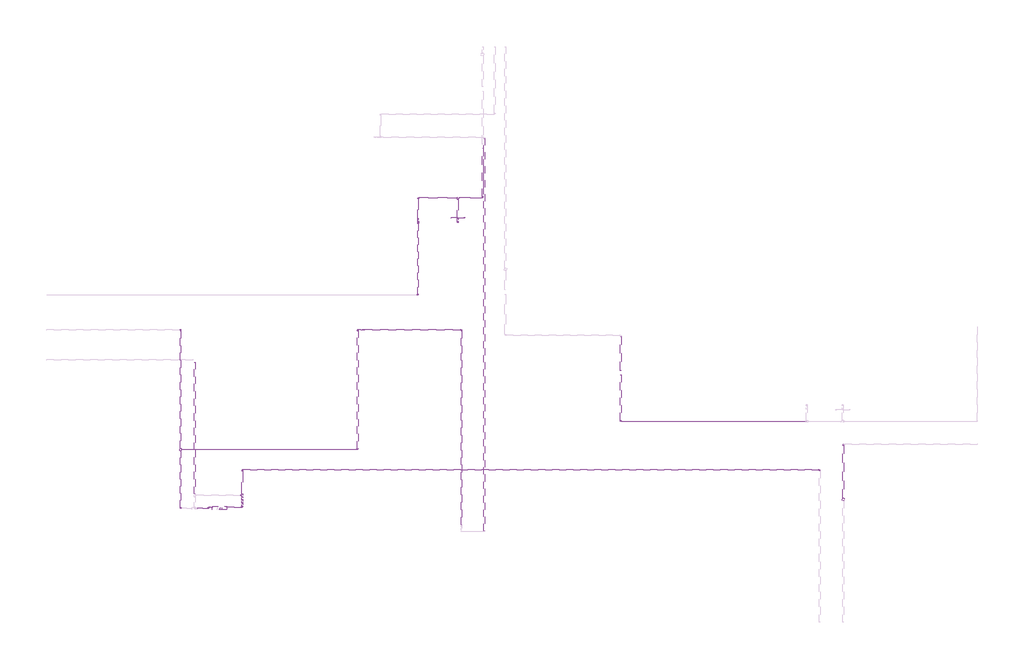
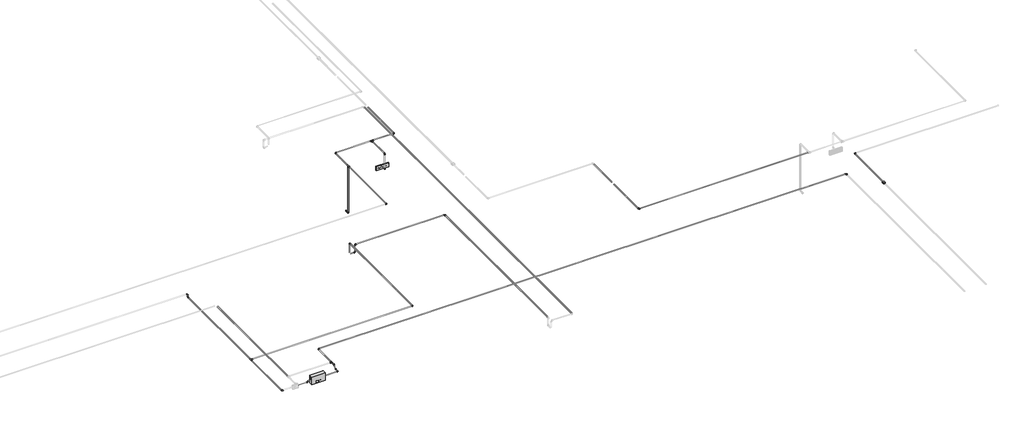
# One storey, part 5 of 6: 35 cable carrier segments, 27 cable carrier fittings, 3 alarms, 1 proxy.
"""IFC4 building model written with IfcOpenShell, lengths in millimetres."""

from ifc_helpers import new_model, si_unit, point, frame, frame_2d, origin, place, context, project, spatial, circle_curve, trimmed, segment, composite_curve, outline, extrude, transform, mapped, element, save
from components import alarm_4b7e8fd8, alarm_a2247946, alarm_12v_26ah_d63bb5e3, electrical_equipment_721526f4, cable_carrier_fitting_69f1a801, cable_carrier_fitting_8122f9af, cable_carrier_fitting_512a3dd7, cable_carrier_fitting_8fd13dfc

model = new_model("IFC4")

# Units and contexts
model_context = context("Model", 3, world=origin())
ifc_project = project(units=[si_unit("LENGTHUNIT", "METRE", prefix="MILLI")], contexts=[model_context])

# Site, building, storey
site = spatial("IfcSite", under=ifc_project)
building = spatial("IfcBuilding", under=site)
storey = spatial("IfcBuildingStorey", under=building, Name="Подвальный этаж", Elevation=-3000.0)

# Alarms
placement = place(None, origin())
alarm_shape = alarm_4b7e8fd8(model_context)
element("IfcAlarm", 1, ObjectType="RBZ_Оповещатель_Световой_Рубеж_ОПОП1-R3(грань) : ОПОП 1-R3 \"Выход\"", at=placement, inside=storey, context=model_context, shape_type="MappedRepresentation", body=[
    mapped(alarm_shape, transform((7210.1759979, 6644.6370105, -700.0), x_axis=(-1.0, 0.0, 0.0), y_axis=(0.0, 0.0, 1.0), z_axis=(0.0, 1.0, 0.0))),
])
alarm_2_shape = alarm_a2247946(model_context)
element("IfcAlarm", 2, ObjectType="RBZ_ИзоляторШлейфа_Рубеж_ИЗ-1_прот.R3(плоскость) : ИЗ-1 прот.R3", at=placement, inside=storey, context=model_context, shape_type="MappedRepresentation", body=[
    mapped(alarm_2_shape, transform((15629.9732726, 494.6370105, -299.95), x_axis=(1.0, 0.0, 0.0), y_axis=(0.0, 1.0, 0.0), z_axis=(0.0, 0.0, 1.0))),
])
alarm_12v_26ah_shape = alarm_12v_26ah_d63bb5e3(model_context)
element("IfcAlarm", 3, ObjectType="АКБ : 12V-7Ah", at=placement, inside=storey, context=model_context, shape_type="MappedRepresentation", body=[
    mapped(alarm_12v_26ah_shape, transform((2025.3958444, 264.6370105, -446.4079999), x_axis=(-1.0, 0.0, 0.0), y_axis=(0.0, -1.0, 0.0), z_axis=(0.0, 0.0, 1.0))),
])

# Proxy
electrical_equipment_shape = electrical_equipment_721526f4(model_context)
element("IfcBuildingElementProxy", 4, Name="RBZ_ИсточникВторичногоЭлектропитания_Рубеж_ИВЭПР12_RS-R3 : ИВЭПР 12/2 RS-R3 исп. 2x7 БР", ObjectType="RBZ_ИсточникВторичногоЭлектропитания_Рубеж_ИВЭПР12_RS-R3 : ИВЭПР 12/2 RS-R3 исп. 2x7 БР", at=placement, inside=storey, context=model_context, shape_type="MappedRepresentation", body=[
    mapped(electrical_equipment_shape, transform((2000.3958444, 264.6370105, -446.4079999), x_axis=(1.0, 0.0, 0.0), y_axis=(0.0, 1.0, 0.0), z_axis=(0.0, 0.0, 1.0))),
])

# Cable carrier fittings
cable_carrier_fitting_shape = cable_carrier_fitting_69f1a801(model_context)
element("IfcCableCarrierFitting", 5, ObjectType="ADSK_Поворот_Минимальный размер : Неспецифицируемый", at=placement, inside=storey, context=model_context, shape_type="MappedRepresentation", body=[
    mapped(cable_carrier_fitting_shape, transform((15629.9732726, 1703.2505803, -310.7), x_axis=(-1.0, 0.0, 0.0), y_axis=(0.0, -1.0, 0.0), z_axis=(0.0, 0.0, 1.0))),
])
element("IfcCableCarrierFitting", 6, ObjectType="ADSK_Поворот_Минимальный размер : Неспецифицируемый", at=placement, inside=storey, context=model_context, shape_type="MappedRepresentation", body=[
    mapped(cable_carrier_fitting_shape, transform((10767.6759979, 2198.2505803, -310.7), x_axis=(0.0, -1.0, 0.0), y_axis=(1.0, 0.0, 0.0), z_axis=(0.0, 0.0, 1.0))),
])
element("IfcCableCarrierFitting", 7, ObjectType="ADSK_Поворот_Минимальный размер : Неспецифицируемый", at=placement, inside=storey, context=model_context, shape_type="MappedRepresentation", body=[
    mapped(cable_carrier_fitting_shape, transform((15115.1759979, 1144.6370105, -310.7), x_axis=(0.0, 1.0, 0.0), y_axis=(-1.0, 0.0, 0.0), z_axis=(0.0, 0.0, 1.0))),
])
element("IfcCableCarrierFitting", 8, ObjectType="ADSK_Поворот_Минимальный размер : Неспецифицируемый", at=placement, inside=storey, context=model_context, shape_type="MappedRepresentation", body=[
    mapped(cable_carrier_fitting_shape, transform((7747.6759979, 7085.6370105, -310.7), x_axis=(1.0, 0.0, 0.0), y_axis=(0.0, 1.0, 0.0), z_axis=(0.0, 0.0, 1.0))),
])
element("IfcCableCarrierFitting", 9, ObjectType="ADSK_Поворот_Минимальный размер : Неспецифицируемый", at=placement, inside=storey, context=model_context, shape_type="MappedRepresentation", body=[
    mapped(cable_carrier_fitting_shape, transform((7210.1759979, 6547.4372049, -700.0), x_axis=(0.0, -1.0, 0.0), y_axis=(0.0, 0.0, 1.0), z_axis=(-1.0, 0.0, 0.0))),
])
element("IfcCableCarrierFitting", 10, ObjectType="ADSK_Поворот_Минимальный размер : Неспецифицируемый", at=placement, inside=storey, context=model_context, shape_type="MappedRepresentation", body=[
    mapped(cable_carrier_fitting_shape, transform((7210.1759979, 6547.4372049, -310.7), x_axis=(0.0, 0.0, 1.0), y_axis=(0.0, 1.0, 0.0), z_axis=(-1.0, 0.0, 0.0))),
])
element("IfcCableCarrierFitting", 11, ObjectType="ADSK_Поворот_Минимальный размер : Неспецифицируемый", at=placement, inside=storey, context=model_context, shape_type="MappedRepresentation", body=[
    mapped(cable_carrier_fitting_shape, transform((6337.6759979, 7085.6370105, -310.7), x_axis=(-1.0, 0.0, 0.0), y_axis=(0.0, -1.0, 0.0), z_axis=(0.0, 0.0, 1.0))),
])
element("IfcCableCarrierFitting", 12, ObjectType="ADSK_Поворот_Минимальный размер : Неспецифицируемый", at=placement, inside=storey, context=model_context, shape_type="MappedRepresentation", body=[
    mapped(cable_carrier_fitting_shape, transform((6337.6759979, 6547.4372049, -1500.0), x_axis=(0.0, -1.0, 0.0), y_axis=(0.0, 0.0, 1.0), z_axis=(-1.0, 0.0, 0.0))),
])
element("IfcCableCarrierFitting", 13, ObjectType="ADSK_Поворот_Минимальный размер : Неспецифицируемый", at=placement, inside=storey, context=model_context, shape_type="MappedRepresentation", body=[
    mapped(cable_carrier_fitting_shape, transform((6337.6759979, 4962.1370105, -310.7), x_axis=(1.0, 0.0, 0.0), y_axis=(0.0, 1.0, 0.0), z_axis=(0.0, 0.0, 1.0))),
])
element("IfcCableCarrierFitting", 14, ObjectType="ADSK_Поворот_Минимальный размер : Неспецифицируемый", at=placement, inside=storey, context=model_context, shape_type="MappedRepresentation", body=[
    mapped(cable_carrier_fitting_shape, transform((2497.3268055, 1144.6370105, -310.7), x_axis=(-1.0, 0.0, 0.0), y_axis=(0.0, -1.0, 0.0), z_axis=(0.0, 0.0, 1.0))),
])
element("IfcCableCarrierFitting", 15, ObjectType="ADSK_Поворот_Минимальный размер : Неспецифицируемый", at=placement, inside=storey, context=model_context, shape_type="MappedRepresentation", body=[
    mapped(cable_carrier_fitting_shape, transform((1147.6759979, 299.1370115, -381.0), x_axis=(0.0, -1.0, 0.0), y_axis=(1.0, 0.0, 0.0), z_axis=(0.0, 0.0, 1.0))),
])
element("IfcCableCarrierFitting", 16, ObjectType="ADSK_Поворот_Минимальный размер : Неспецифицируемый", at=placement, inside=storey, context=model_context, shape_type="MappedRepresentation", body=[
    mapped(cable_carrier_fitting_shape, transform((1147.6759979, 4204.6370105, -310.7), x_axis=(1.0, 0.0, 0.0), y_axis=(0.0, -0.1411390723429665, -0.9899897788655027), z_axis=(0.0, 0.9899897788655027, -0.1411390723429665))),
])
element("IfcCableCarrierFitting", 17, ObjectType="ADSK_Поворот_Минимальный размер : Неспецифицируемый", at=placement, inside=storey, context=model_context, shape_type="MappedRepresentation", body=[
    mapped(cable_carrier_fitting_shape, transform((5017.0245706, 4204.6370105, -381.0), x_axis=(0.0, 0.0, 1.0), y_axis=(0.0, -1.0, 0.0), z_axis=(1.0, 0.0, 0.0))),
])
element("IfcCableCarrierFitting", 18, ObjectType="ADSK_Поворот_Минимальный размер : Неспецифицируемый", at=placement, inside=storey, context=model_context, shape_type="MappedRepresentation", body=[
    mapped(cable_carrier_fitting_shape, transform((5144.8758035, 4204.6370105, -655.9740066), x_axis=(1.0, 0.0, 0.0), y_axis=(0.0, 0.0, 1.0), z_axis=(0.0, -1.0, 0.0))),
])
element("IfcCableCarrierFitting", 19, ObjectType="ADSK_Поворот_Минимальный размер : Неспецифицируемый", at=placement, inside=storey, context=model_context, shape_type="MappedRepresentation", body=[
    mapped(cable_carrier_fitting_shape, transform((7287.6759979, 4204.6370105, -458.0), x_axis=(0.0, 1.0, 0.0), y_axis=(-1.0, 0.0, 0.0), z_axis=(0.0, 0.0, 1.0))),
])
element("IfcCableCarrierFitting", 20, ObjectType="ADSK_Поворот_Минимальный размер : Неспецифицируемый", at=placement, inside=storey, context=model_context, shape_type="MappedRepresentation", body=[
    mapped(cable_carrier_fitting_shape, transform((5144.8758035, 4204.6370105, -458.0), x_axis=(0.0, 0.0, 1.0), y_axis=(1.0, 0.0, 0.0), z_axis=(0.0, 1.0, 0.0))),
])
element("IfcCableCarrierFitting", 21, ObjectType="ADSK_Поворот_Минимальный размер : Неспецифицируемый", at=placement, inside=storey, context=model_context, shape_type="MappedRepresentation", body=[
    mapped(cable_carrier_fitting_shape, transform((5017.0245706, 1587.1370105, -381.0), x_axis=(1.0, 0.0, 0.0), y_axis=(0.0, 1.0, 0.0), z_axis=(0.0, 0.0, 1.0))),
])
element("IfcCableCarrierFitting", 22, ObjectType="ADSK_Поворот_Минимальный размер : Неспецифицируемый", at=placement, inside=storey, context=model_context, shape_type="MappedRepresentation", body=[
    mapped(cable_carrier_fitting_shape, transform((2497.3268055, 321.0414634, -381.0), x_axis=(1.0, 0.0, 0.0), y_axis=(0.0, 1.0, 0.0), z_axis=(0.0, 0.0, 1.0))),
])
cable_carrier_fitting_2_shape = cable_carrier_fitting_8122f9af(model_context)
element("IfcCableCarrierFitting", 23, ObjectType="ADSK_Поворот_Минимальный размер : Неспецифицируемый", at=placement, inside=storey, context=model_context, shape_type="MappedRepresentation", body=[
    mapped(cable_carrier_fitting_2_shape, transform((1769.5303101, 321.0414634, -381.0), x_axis=(-1.0, 0.0, 0.0), y_axis=(0.0, -1.0, 0.0), z_axis=(0.0, 0.0, 1.0))),
])
element("IfcCableCarrierFitting", 24, ObjectType="ADSK_Поворот_Минимальный размер : Неспецифицируемый", at=placement, inside=storey, context=model_context, shape_type="MappedRepresentation", body=[
    mapped(cable_carrier_fitting_2_shape, transform((1747.6258581, 299.1370115, -381.0), x_axis=(1.0, 0.0, 0.0), y_axis=(0.0, 1.0, 0.0), z_axis=(0.0, 0.0, 1.0))),
])
element("IfcCableCarrierFitting", 25, ObjectType="ADSK_Поворот_Минимальный размер : Неспецифицируемый", at=placement, inside=storey, context=model_context, shape_type="MappedRepresentation", body=[
    mapped(cable_carrier_fitting_2_shape, transform((2497.3268055, 488.2714762, -310.7), x_axis=(0.0, -1.0, 0.0), y_axis=(0.0, 0.0, -1.0), z_axis=(1.0, 0.0, 0.0))),
])
element("IfcCableCarrierFitting", 26, ObjectType="ADSK_Поворот_Минимальный размер : Неспецифицируемый", at=placement, inside=storey, context=model_context, shape_type="MappedRepresentation", body=[
    mapped(cable_carrier_fitting_2_shape, transform((2497.3268055, 417.9714762, -381.0), x_axis=(0.0, -0.7071067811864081, -0.7071067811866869), y_axis=(0.0, -0.7071067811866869, 0.7071067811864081), z_axis=(-1.0, 0.0, 0.0))),
])
cable_carrier_fitting_3_shape = cable_carrier_fitting_512a3dd7(model_context)
element("IfcCableCarrierFitting", 27, ObjectType="ADSK_Поворот_Минимальный размер : Неспецифицируемый", at=placement, inside=storey, context=model_context, shape_type="MappedRepresentation", body=[
    mapped(cable_carrier_fitting_3_shape, transform((1147.6759979, 4194.6146073, -381.0), x_axis=(0.0, 1.0, 0.0), y_axis=(0.0, 0.0, 1.0), z_axis=(1.0, 0.0, 0.0))),
])
cable_carrier_fitting_4_shape = cable_carrier_fitting_8fd13dfc(model_context)
element("IfcCableCarrierFitting", 28, ObjectType="ADSK_Тройник : ПВХ", at=placement, inside=storey, context=model_context, shape_type="MappedRepresentation", body=[
    mapped(cable_carrier_fitting_4_shape, transform((7210.1759979, 7085.6370105, -310.7), x_axis=(1.0, 0.0, 0.0), y_axis=(0.0, 1.0, 0.0), z_axis=(0.0, 0.0, 1.0))),
])
element("IfcCableCarrierFitting", 29, ObjectType="ADSK_Тройник : ПВХ", at=placement, inside=storey, context=model_context, shape_type="MappedRepresentation", body=[
    mapped(cable_carrier_fitting_4_shape, transform((6337.6759979, 6547.4372049, -310.7), x_axis=(0.0, 1.0, 0.0), y_axis=(0.0, 0.0, 1.0), z_axis=(1.0, 0.0, 0.0))),
])
element("IfcCableCarrierFitting", 30, ObjectType="ADSK_Тройник : ПВХ", at=placement, inside=storey, context=model_context, shape_type="MappedRepresentation", body=[
    mapped(cable_carrier_fitting_4_shape, transform((2497.3268055, 587.1370105, -310.7), x_axis=(0.0, -1.0, 0.0), y_axis=(1.0, 0.0, 0.0), z_axis=(0.0, 0.0, 1.0))),
])
element("IfcCableCarrierFitting", 31, ObjectType="ADSK_Тройник : ПВХ", at=placement, inside=storey, context=model_context, shape_type="MappedRepresentation", body=[
    mapped(cable_carrier_fitting_4_shape, transform((1147.6759979, 1587.1370105, -381.0), x_axis=(0.0, 1.0, 0.0), y_axis=(-1.0, 0.0, 0.0), z_axis=(0.0, 0.0, 1.0))),
])

# Cable carrier segments
element("IfcCableCarrierSegment", 32, ObjectType="Гофрированная труба", at=placement, inside=storey, context=model_context, shape_type="SweptSolid", body=[
    extrude(outline(composite_curve([segment(trimmed(circle_curve(frame_2d((1144.6370105, -310.7)), 10.0), [point((1134.6370105, -310.7))], [point((1144.6370105, -300.7))], False, "CARTESIAN"), True, "CONTINUOUS"), segment(trimmed(circle_curve(frame_2d((1144.6370105, -310.7)), 10.0), [point((1144.6370105, -300.7))], [point((1154.6370105, -310.7))], False, "CARTESIAN"), True, "CONTINUOUS"), segment(trimmed(circle_curve(frame_2d((1144.6370105, -310.7)), 10.0), [point((1154.6370105, -310.7))], [point((1144.6370105, -320.7))], False, "CARTESIAN"), True, "CONTINUOUS"), segment(trimmed(circle_curve(frame_2d((1144.6370105, -310.7)), 10.0), [point((1144.6370105, -320.7))], [point((1134.6370105, -310.7))], False, "CARTESIAN"), True, "CONTINUOUS")], self_intersect=False)), frame((2518.3268055, 0.0, 0.0), z_axis=(1.0, 0.0, 0.0), x_axis=(0.0, 1.0, 0.0)), (0.0, 0.0, 1.0), 12575.8491924),
])
element("IfcCableCarrierSegment", 33, ObjectType="Гофрированная труба", at=placement, inside=storey, context=model_context, shape_type="SweptSolid", body=[
    extrude(outline(composite_curve([segment(trimmed(circle_curve(frame_2d((-310.7, 15629.9732726)), 10.0), [point((-310.7, 15639.9732726))], [point((-300.7, 15629.9732726))], False, "CARTESIAN"), True, "CONTINUOUS"), segment(trimmed(circle_curve(frame_2d((-310.7, 15629.9732726)), 10.0), [point((-300.7, 15629.9732726))], [point((-310.7, 15619.9732726))], False, "CARTESIAN"), True, "CONTINUOUS"), segment(trimmed(circle_curve(frame_2d((-310.7, 15629.9732726)), 10.0), [point((-310.7, 15619.9732726))], [point((-320.7, 15629.9732726))], False, "CARTESIAN"), True, "CONTINUOUS"), segment(trimmed(circle_curve(frame_2d((-310.7, 15629.9732726)), 10.0), [point((-320.7, 15629.9732726))], [point((-310.7, 15639.9732726))], False, "CARTESIAN"), True, "CONTINUOUS")], self_intersect=False)), frame((0.0, 520.6370105, 0.0), z_axis=(0.0, 1.0, 0.0), x_axis=(0.0, 0.0, 1.0)), (0.0, 0.0, 1.0), 1161.6135698),
])
element("IfcCableCarrierSegment", 34, ObjectType="Гофрированная труба", at=placement, inside=storey, context=model_context, shape_type="SweptSolid", body=[
    extrude(outline(composite_curve([segment(trimmed(circle_curve(frame_2d((2198.2505803, -310.7)), 10.0), [point((2188.2505803, -310.7))], [point((2198.2505803, -300.7))], False, "CARTESIAN"), True, "CONTINUOUS"), segment(trimmed(circle_curve(frame_2d((2198.2505803, -310.7)), 10.0), [point((2198.2505803, -300.7))], [point((2208.2505803, -310.7))], False, "CARTESIAN"), True, "CONTINUOUS"), segment(trimmed(circle_curve(frame_2d((2198.2505803, -310.7)), 10.0), [point((2208.2505803, -310.7))], [point((2198.2505803, -320.7))], False, "CARTESIAN"), True, "CONTINUOUS"), segment(trimmed(circle_curve(frame_2d((2198.2505803, -310.7)), 10.0), [point((2198.2505803, -320.7))], [point((2188.2505803, -310.7))], False, "CARTESIAN"), True, "CONTINUOUS")], self_intersect=False)), frame((10788.6759979, 0.0, 0.0), z_axis=(1.0, 0.0, 0.0), x_axis=(0.0, 1.0, 0.0)), (0.0, 0.0, 1.0), 4016.5),
])
element("IfcCableCarrierSegment", 35, ObjectType="Гофрированная труба", at=placement, inside=storey, context=model_context, shape_type="SweptSolid", body=[
    extrude(outline(composite_curve([segment(trimmed(circle_curve(frame_2d((-310.7, 10767.6759979)), 10.0), [point((-310.7, 10777.6759979))], [point((-300.7, 10767.6759979))], False, "CARTESIAN"), True, "CONTINUOUS"), segment(trimmed(circle_curve(frame_2d((-310.7, 10767.6759979)), 10.0), [point((-300.7, 10767.6759979))], [point((-310.7, 10757.6759979))], False, "CARTESIAN"), True, "CONTINUOUS"), segment(trimmed(circle_curve(frame_2d((-310.7, 10767.6759979)), 10.0), [point((-310.7, 10757.6759979))], [point((-320.7, 10767.6759979))], False, "CARTESIAN"), True, "CONTINUOUS"), segment(trimmed(circle_curve(frame_2d((-310.7, 10767.6759979)), 10.0), [point((-320.7, 10767.6759979))], [point((-310.7, 10777.6759979))], False, "CARTESIAN"), True, "CONTINUOUS")], self_intersect=False)), frame((0.0, 2219.2505803, 0.0), z_axis=(0.0, 1.0, 0.0), x_axis=(0.0, 0.0, 1.0)), (0.0, 0.0, 1.0), 998.8864302),
])
element("IfcCableCarrierSegment", 36, ObjectType="Гофрированная труба", at=placement, inside=storey, context=model_context, shape_type="SweptSolid", body=[
    extrude(outline(composite_curve([segment(trimmed(circle_curve(frame_2d((-310.7, 10767.6759979)), 10.0), [point((-310.7, 10777.6759979))], [point((-300.7, 10767.6759979))], False, "CARTESIAN"), True, "CONTINUOUS"), segment(trimmed(circle_curve(frame_2d((-310.7, 10767.6759979)), 10.0), [point((-300.7, 10767.6759979))], [point((-310.7, 10757.6759979))], False, "CARTESIAN"), True, "CONTINUOUS"), segment(trimmed(circle_curve(frame_2d((-310.7, 10767.6759979)), 10.0), [point((-310.7, 10757.6759979))], [point((-320.7, 10767.6759979))], False, "CARTESIAN"), True, "CONTINUOUS"), segment(trimmed(circle_curve(frame_2d((-310.7, 10767.6759979)), 10.0), [point((-320.7, 10767.6759979))], [point((-310.7, 10777.6759979))], False, "CARTESIAN"), True, "CONTINUOUS")], self_intersect=False)), frame((0.0, 3311.1370105, 0.0), z_axis=(0.0, 1.0, 0.0), x_axis=(0.0, 0.0, 1.0)), (0.0, 0.0, 1.0), 750.5229963),
])
element("IfcCableCarrierSegment", 37, ObjectType="Гофрированная труба", at=placement, inside=storey, context=model_context, shape_type="SweptSolid", body=[
    extrude(outline(composite_curve([segment(trimmed(circle_curve(frame_2d((-310.7, 7747.6759979)), 10.0), [point((-310.7, 7757.6759979))], [point((-300.7, 7747.6759979))], False, "CARTESIAN"), True, "CONTINUOUS"), segment(trimmed(circle_curve(frame_2d((-310.7, 7747.6759979)), 10.0), [point((-300.7, 7747.6759979))], [point((-310.7, 7737.6759979))], False, "CARTESIAN"), True, "CONTINUOUS"), segment(trimmed(circle_curve(frame_2d((-310.7, 7747.6759979)), 10.0), [point((-310.7, 7737.6759979))], [point((-320.7, 7747.6759979))], False, "CARTESIAN"), True, "CONTINUOUS"), segment(trimmed(circle_curve(frame_2d((-310.7, 7747.6759979)), 10.0), [point((-320.7, 7747.6759979))], [point((-310.7, 7757.6759979))], False, "CARTESIAN"), True, "CONTINUOUS")], self_intersect=False)), frame((0.0, 7106.6370105, 0.0), z_axis=(0.0, 1.0, 0.0), x_axis=(0.0, 0.0, 1.0)), (0.0, 0.0, 1.0), 1059.0),
])
element("IfcCableCarrierSegment", 38, ObjectType="Гофрированная труба", at=placement, inside=storey, context=model_context, shape_type="SweptSolid", body=[
    extrude(outline(composite_curve([segment(trimmed(circle_curve(frame_2d((7085.6370105, -310.7)), 10.0), [point((7075.6370105, -310.7))], [point((7085.6370105, -300.7))], False, "CARTESIAN"), True, "CONTINUOUS"), segment(trimmed(circle_curve(frame_2d((7085.6370105, -310.7)), 10.0), [point((7085.6370105, -300.7))], [point((7095.6370105, -310.7))], False, "CARTESIAN"), True, "CONTINUOUS"), segment(trimmed(circle_curve(frame_2d((7085.6370105, -310.7)), 10.0), [point((7095.6370105, -310.7))], [point((7085.6370105, -320.7))], False, "CARTESIAN"), True, "CONTINUOUS"), segment(trimmed(circle_curve(frame_2d((7085.6370105, -310.7)), 10.0), [point((7085.6370105, -320.7))], [point((7075.6370105, -310.7))], False, "CARTESIAN"), True, "CONTINUOUS")], self_intersect=False)), frame((6358.6759979, 0.0, 0.0), z_axis=(1.0, 0.0, 0.0), x_axis=(0.0, 1.0, 0.0)), (0.0, 0.0, 1.0), 821.5),
])
element("IfcCableCarrierSegment", 39, ObjectType="Гофрированная труба", at=placement, inside=storey, context=model_context, shape_type="SweptSolid", body=[
    extrude(outline(composite_curve([segment(trimmed(circle_curve(frame_2d((-310.7, 6337.6759979)), 10.0), [point((-310.7, 6327.6759979))], [point((-320.7, 6337.6759979))], False, "CARTESIAN"), True, "CONTINUOUS"), segment(trimmed(circle_curve(frame_2d((-310.7, 6337.6759979)), 10.0), [point((-320.7, 6337.6759979))], [point((-310.7, 6347.6759979))], False, "CARTESIAN"), True, "CONTINUOUS"), segment(trimmed(circle_curve(frame_2d((-310.7, 6337.6759979)), 10.0), [point((-310.7, 6347.6759979))], [point((-300.7, 6337.6759979))], False, "CARTESIAN"), True, "CONTINUOUS"), segment(trimmed(circle_curve(frame_2d((-310.7, 6337.6759979)), 10.0), [point((-300.7, 6337.6759979))], [point((-310.7, 6327.6759979))], False, "CARTESIAN"), True, "CONTINUOUS")], self_intersect=False)), frame((0.0, 4983.1370105, 0.0), z_axis=(0.0, 1.0, 0.0), x_axis=(0.0, 0.0, 1.0)), (0.0, 0.0, 1.0), 1534.3001944),
])
element("IfcCableCarrierSegment", 40, ObjectType="Гофрированная труба", at=placement, inside=storey, context=model_context, shape_type="SweptSolid", body=[
    extrude(outline(composite_curve([segment(trimmed(circle_curve(frame_2d((-310.7, 7210.1759979)), 10.0), [point((-310.7, 7220.1759979))], [point((-300.7, 7210.1759979))], False, "CARTESIAN"), True, "CONTINUOUS"), segment(trimmed(circle_curve(frame_2d((-310.7, 7210.1759979)), 10.0), [point((-300.7, 7210.1759979))], [point((-310.7, 7200.1759979))], False, "CARTESIAN"), True, "CONTINUOUS"), segment(trimmed(circle_curve(frame_2d((-310.7, 7210.1759979)), 10.0), [point((-310.7, 7200.1759979))], [point((-320.7, 7210.1759979))], False, "CARTESIAN"), True, "CONTINUOUS"), segment(trimmed(circle_curve(frame_2d((-310.7, 7210.1759979)), 10.0), [point((-320.7, 7210.1759979))], [point((-310.7, 7220.1759979))], False, "CARTESIAN"), True, "CONTINUOUS")], self_intersect=False)), frame((0.0, 6568.4372049, 0.0), z_axis=(0.0, 1.0, 0.0), x_axis=(0.0, 0.0, 1.0)), (0.0, 0.0, 1.0), 487.1998056),
])
element("IfcCableCarrierSegment", 41, ObjectType="Гофрированная труба", at=placement, inside=storey, context=model_context, shape_type="SweptSolid", body=[
    extrude(outline(composite_curve([segment(trimmed(circle_curve(frame_2d((-700.0, 7210.1759979)), 10.0), [point((-700.0, 7200.1759979))], [point((-710.0, 7210.1759979))], False, "CARTESIAN"), True, "CONTINUOUS"), segment(trimmed(circle_curve(frame_2d((-700.0, 7210.1759979)), 10.0), [point((-710.0, 7210.1759979))], [point((-700.0, 7220.1759979))], False, "CARTESIAN"), True, "CONTINUOUS"), segment(trimmed(circle_curve(frame_2d((-700.0, 7210.1759979)), 10.0), [point((-700.0, 7220.1759979))], [point((-690.0, 7210.1759979))], False, "CARTESIAN"), True, "CONTINUOUS"), segment(trimmed(circle_curve(frame_2d((-700.0, 7210.1759979)), 10.0), [point((-690.0, 7210.1759979))], [point((-700.0, 7200.1759979))], False, "CARTESIAN"), True, "CONTINUOUS")], self_intersect=False)), frame((0.0, 6568.4372049, 0.0), z_axis=(0.0, 1.0, 0.0), x_axis=(0.0, 0.0, 1.0)), (0.0, 0.0, 1.0), 76.1998056),
])
element("IfcCableCarrierSegment", 42, ObjectType="Гофрированная труба", at=placement, inside=storey, context=model_context, shape_type="SweptSolid", body=[
    extrude(outline(composite_curve([segment(trimmed(circle_curve(frame_2d((7210.1759979, 6547.4372049)), 10.0), [point((7200.1759979, 6547.4372049))], [point((7210.1759979, 6557.4372049))], False, "CARTESIAN"), True, "CONTINUOUS"), segment(trimmed(circle_curve(frame_2d((7210.1759979, 6547.4372049)), 10.0), [point((7210.1759979, 6557.4372049))], [point((7220.1759979, 6547.4372049))], False, "CARTESIAN"), True, "CONTINUOUS"), segment(trimmed(circle_curve(frame_2d((7210.1759979, 6547.4372049)), 10.0), [point((7220.1759979, 6547.4372049))], [point((7210.1759979, 6537.4372049))], False, "CARTESIAN"), True, "CONTINUOUS"), segment(trimmed(circle_curve(frame_2d((7210.1759979, 6547.4372049)), 10.0), [point((7210.1759979, 6537.4372049))], [point((7200.1759979, 6547.4372049))], False, "CARTESIAN"), True, "CONTINUOUS")], self_intersect=False)), frame((0.0, 0.0, -679.0), z_axis=(0.0, 0.0, 1.0), x_axis=(1.0, 0.0, 0.0)), (0.0, 0.0, 1.0), 347.3),
])
element("IfcCableCarrierSegment", 43, ObjectType="Гофрированная труба", at=placement, inside=storey, context=model_context, shape_type="SweptSolid", body=[
    extrude(outline(composite_curve([segment(trimmed(circle_curve(frame_2d((7085.6370105, -310.7)), 10.0), [point((7095.6370105, -310.7))], [point((7085.6370105, -320.7))], False, "CARTESIAN"), True, "CONTINUOUS"), segment(trimmed(circle_curve(frame_2d((7085.6370105, -310.7)), 10.0), [point((7085.6370105, -320.7))], [point((7075.6370105, -310.7))], False, "CARTESIAN"), True, "CONTINUOUS"), segment(trimmed(circle_curve(frame_2d((7085.6370105, -310.7)), 10.0), [point((7075.6370105, -310.7))], [point((7085.6370105, -300.7))], False, "CARTESIAN"), True, "CONTINUOUS"), segment(trimmed(circle_curve(frame_2d((7085.6370105, -310.7)), 10.0), [point((7085.6370105, -300.7))], [point((7095.6370105, -310.7))], False, "CARTESIAN"), True, "CONTINUOUS")], self_intersect=False)), frame((7240.1759979, 0.0, 0.0), z_axis=(1.0, 0.0, 0.0), x_axis=(0.0, 1.0, 0.0)), (0.0, 0.0, 1.0), 486.5),
])
element("IfcCableCarrierSegment", 44, ObjectType="Гофрированная труба", at=placement, inside=storey, context=model_context, shape_type="SweptSolid", body=[
    extrude(outline(composite_curve([segment(trimmed(circle_curve(frame_2d((-1500.0, 6337.6759979)), 10.0), [point((-1500.0, 6327.6759979))], [point((-1510.0, 6337.6759979))], False, "CARTESIAN"), True, "CONTINUOUS"), segment(trimmed(circle_curve(frame_2d((-1500.0, 6337.6759979)), 10.0), [point((-1510.0, 6337.6759979))], [point((-1500.0, 6347.6759979))], False, "CARTESIAN"), True, "CONTINUOUS"), segment(trimmed(circle_curve(frame_2d((-1500.0, 6337.6759979)), 10.0), [point((-1500.0, 6347.6759979))], [point((-1490.0, 6337.6759979))], False, "CARTESIAN"), True, "CONTINUOUS"), segment(trimmed(circle_curve(frame_2d((-1500.0, 6337.6759979)), 10.0), [point((-1490.0, 6337.6759979))], [point((-1500.0, 6327.6759979))], False, "CARTESIAN"), True, "CONTINUOUS")], self_intersect=False)), frame((0.0, 6568.4372049, 0.0), z_axis=(0.0, 1.0, 0.0), x_axis=(0.0, 0.0, 1.0)), (0.0, 0.0, 1.0), 76.1998056),
])
element("IfcCableCarrierSegment", 45, ObjectType="Гофрированная труба", at=placement, inside=storey, context=model_context, shape_type="SweptSolid", body=[
    extrude(outline(composite_curve([segment(trimmed(circle_curve(frame_2d((6337.6759979, 6547.4372049)), 10.0), [point((6327.6759979, 6547.4372049))], [point((6337.6759979, 6557.4372049))], False, "CARTESIAN"), True, "CONTINUOUS"), segment(trimmed(circle_curve(frame_2d((6337.6759979, 6547.4372049)), 10.0), [point((6337.6759979, 6557.4372049))], [point((6347.6759979, 6547.4372049))], False, "CARTESIAN"), True, "CONTINUOUS"), segment(trimmed(circle_curve(frame_2d((6337.6759979, 6547.4372049)), 10.0), [point((6347.6759979, 6547.4372049))], [point((6337.6759979, 6537.4372049))], False, "CARTESIAN"), True, "CONTINUOUS"), segment(trimmed(circle_curve(frame_2d((6337.6759979, 6547.4372049)), 10.0), [point((6337.6759979, 6537.4372049))], [point((6327.6759979, 6547.4372049))], False, "CARTESIAN"), True, "CONTINUOUS")], self_intersect=False)), frame((0.0, 0.0, -1479.0), z_axis=(0.0, 0.0, 1.0), x_axis=(1.0, 0.0, 0.0)), (0.0, 0.0, 1.0), 1138.3),
])
element("IfcCableCarrierSegment", 46, ObjectType="Гофрированная труба", at=placement, inside=storey, context=model_context, shape_type="SweptSolid", body=[
    extrude(outline(composite_curve([segment(trimmed(circle_curve(frame_2d((-310.7, 6337.6759979)), 10.0), [point((-310.7, 6327.6759979))], [point((-320.7, 6337.6759979))], False, "CARTESIAN"), True, "CONTINUOUS"), segment(trimmed(circle_curve(frame_2d((-310.7, 6337.6759979)), 10.0), [point((-320.7, 6337.6759979))], [point((-310.7, 6347.6759979))], False, "CARTESIAN"), True, "CONTINUOUS"), segment(trimmed(circle_curve(frame_2d((-310.7, 6337.6759979)), 10.0), [point((-310.7, 6347.6759979))], [point((-300.7, 6337.6759979))], False, "CARTESIAN"), True, "CONTINUOUS"), segment(trimmed(circle_curve(frame_2d((-310.7, 6337.6759979)), 10.0), [point((-300.7, 6337.6759979))], [point((-310.7, 6327.6759979))], False, "CARTESIAN"), True, "CONTINUOUS")], self_intersect=False)), frame((0.0, 6577.4372049, 0.0), z_axis=(0.0, 1.0, 0.0), x_axis=(0.0, 0.0, 1.0)), (0.0, 0.0, 1.0), 487.1998056),
])
element("IfcCableCarrierSegment", 47, ObjectType="Гофрированная труба", at=placement, inside=storey, context=model_context, shape_type="SweptSolid", body=[
    extrude(outline(composite_curve([segment(trimmed(circle_curve(frame_2d((-310.7, 2497.3268055)), 10.0), [point((-310.7, 2507.3268055))], [point((-300.7, 2497.3268055))], False, "CARTESIAN"), True, "CONTINUOUS"), segment(trimmed(circle_curve(frame_2d((-310.7, 2497.3268055)), 10.0), [point((-300.7, 2497.3268055))], [point((-310.7, 2487.3268055))], False, "CARTESIAN"), True, "CONTINUOUS"), segment(trimmed(circle_curve(frame_2d((-310.7, 2497.3268055)), 10.0), [point((-310.7, 2487.3268055))], [point((-320.7, 2497.3268055))], False, "CARTESIAN"), True, "CONTINUOUS"), segment(trimmed(circle_curve(frame_2d((-310.7, 2497.3268055)), 10.0), [point((-320.7, 2497.3268055))], [point((-310.7, 2507.3268055))], False, "CARTESIAN"), True, "CONTINUOUS")], self_intersect=False)), frame((0.0, 617.1370105, 0.0), z_axis=(0.0, 1.0, 0.0), x_axis=(0.0, 0.0, 1.0)), (0.0, 0.0, 1.0), 506.5),
])
element("IfcCableCarrierSegment", 48, ObjectType="Гофрированная труба", at=placement, inside=storey, context=model_context, shape_type="SweptSolid", body=[
    extrude(outline(composite_curve([segment(trimmed(circle_curve(frame_2d((-310.7, 1460.1759979)), 10.0), [point((-310.7, 1450.1759979))], [point((-320.7, 1460.1759979))], False, "CARTESIAN"), True, "CONTINUOUS"), segment(trimmed(circle_curve(frame_2d((-310.7, 1460.1759979)), 10.0), [point((-320.7, 1460.1759979))], [point((-310.7, 1470.1759979))], False, "CARTESIAN"), True, "CONTINUOUS"), segment(trimmed(circle_curve(frame_2d((-310.7, 1460.1759979)), 10.0), [point((-310.7, 1470.1759979))], [point((-300.7, 1460.1759979))], False, "CARTESIAN"), True, "CONTINUOUS"), segment(trimmed(circle_curve(frame_2d((-310.7, 1460.1759979)), 10.0), [point((-300.7, 1460.1759979))], [point((-310.7, 1450.1759979))], False, "CARTESIAN"), True, "CONTINUOUS")], self_intersect=False)), frame((0.0, 617.1370105, 0.0), z_axis=(0.0, 1.0, 0.0), x_axis=(0.0, 0.0, 1.0)), (0.0, 0.0, 1.0), 2881.0),
])
element("IfcCableCarrierSegment", 49, ObjectType="Гофрированная труба", at=placement, inside=storey, context=model_context, shape_type="SweptSolid", body=[
    extrude(outline(composite_curve([segment(trimmed(circle_curve(frame_2d((-381.0, 1147.6759979)), 10.0), [point((-381.0, 1157.6759979))], [point((-371.0, 1147.6759979))], False, "CARTESIAN"), True, "CONTINUOUS"), segment(trimmed(circle_curve(frame_2d((-381.0, 1147.6759979)), 10.0), [point((-371.0, 1147.6759979))], [point((-381.0, 1137.6759979))], False, "CARTESIAN"), True, "CONTINUOUS"), segment(trimmed(circle_curve(frame_2d((-381.0, 1147.6759979)), 10.0), [point((-381.0, 1137.6759979))], [point((-391.0, 1147.6759979))], False, "CARTESIAN"), True, "CONTINUOUS"), segment(trimmed(circle_curve(frame_2d((-381.0, 1147.6759979)), 10.0), [point((-391.0, 1147.6759979))], [point((-381.0, 1157.6759979))], False, "CARTESIAN"), True, "CONTINUOUS")], self_intersect=False)), frame((0.0, 1617.1370105, 0.0), z_axis=(0.0, 1.0, 0.0), x_axis=(0.0, 0.0, 1.0)), (0.0, 0.0, 1.0), 2559.1266918),
])
element("IfcCableCarrierSegment", 50, ObjectType="Гофрированная труба", at=placement, inside=storey, context=model_context, shape_type="SweptSolid", body=[
    extrude(outline(composite_curve([segment(trimmed(circle_curve(frame_2d((0.0, 10.0)), 10.0), [point((10.0, 10.0))], [point((0.0, 0.0))], False, "CARTESIAN"), True, "CONTINUOUS"), segment(trimmed(circle_curve(frame_2d((0.0, 10.0)), 10.0), [point((0.0, 0.0))], [point((-10.0, 10.0))], False, "CARTESIAN"), True, "CONTINUOUS"), segment(trimmed(circle_curve(frame_2d((0.0, 10.0)), 10.0), [point((-10.0, 10.0))], [point((0.0, 20.0))], False, "CARTESIAN"), True, "CONTINUOUS"), segment(trimmed(circle_curve(frame_2d((0.0, 10.0)), 10.0), [point((0.0, 20.0))], [point((10.0, 10.0))], False, "CARTESIAN"), True, "CONTINUOUS")], self_intersect=False)), frame((1147.6759979, 4187.3047392, -361.4214009), z_axis=(0.0, 0.1411390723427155, 0.9899897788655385), x_axis=(1.0, 0.0, 0.0)), (0.0, 0.0, 1.0), 31.6599292),
])
element("IfcCableCarrierSegment", 51, ObjectType="Гофрированная труба", at=placement, inside=storey, context=model_context, shape_type="SweptSolid", body=[
    extrude(outline(composite_curve([segment(trimmed(circle_curve(frame_2d((-381.0, 5017.0245706)), 10.0), [point((-381.0, 5007.0245706))], [point((-391.0, 5017.0245706))], False, "CARTESIAN"), True, "CONTINUOUS"), segment(trimmed(circle_curve(frame_2d((-381.0, 5017.0245706)), 10.0), [point((-391.0, 5017.0245706))], [point((-381.0, 5027.0245706))], False, "CARTESIAN"), True, "CONTINUOUS"), segment(trimmed(circle_curve(frame_2d((-381.0, 5017.0245706)), 10.0), [point((-381.0, 5027.0245706))], [point((-371.0, 5017.0245706))], False, "CARTESIAN"), True, "CONTINUOUS"), segment(trimmed(circle_curve(frame_2d((-381.0, 5017.0245706)), 10.0), [point((-371.0, 5017.0245706))], [point((-381.0, 5007.0245706))], False, "CARTESIAN"), True, "CONTINUOUS")], self_intersect=False)), frame((0.0, 1608.1370105, 0.0), z_axis=(0.0, 1.0, 0.0), x_axis=(0.0, 0.0, 1.0)), (0.0, 0.0, 1.0), 2575.5),
])
element("IfcCableCarrierSegment", 52, ObjectType="Гофрированная труба", at=placement, inside=storey, context=model_context, shape_type="SweptSolid", body=[
    extrude(outline(composite_curve([segment(trimmed(circle_curve(frame_2d((5017.0245706, 4204.6370105)), 10.0), [point((5007.0245706, 4204.6370105))], [point((5017.0245706, 4214.6370105))], False, "CARTESIAN"), True, "CONTINUOUS"), segment(trimmed(circle_curve(frame_2d((5017.0245706, 4204.6370105)), 10.0), [point((5017.0245706, 4214.6370105))], [point((5027.0245706, 4204.6370105))], False, "CARTESIAN"), True, "CONTINUOUS"), segment(trimmed(circle_curve(frame_2d((5017.0245706, 4204.6370105)), 10.0), [point((5027.0245706, 4204.6370105))], [point((5017.0245706, 4194.6370105))], False, "CARTESIAN"), True, "CONTINUOUS"), segment(trimmed(circle_curve(frame_2d((5017.0245706, 4204.6370105)), 10.0), [point((5017.0245706, 4194.6370105))], [point((5007.0245706, 4204.6370105))], False, "CARTESIAN"), True, "CONTINUOUS")], self_intersect=False)), frame((0.0, 0.0, -611.9740066), z_axis=(0.0, 0.0, 1.0), x_axis=(1.0, 0.0, 0.0)), (0.0, 0.0, 1.0), 209.9740066),
])
element("IfcCableCarrierSegment", 53, ObjectType="Гофрированная труба", at=placement, inside=storey, context=model_context, shape_type="SweptSolid", body=[
    extrude(outline(composite_curve([segment(trimmed(circle_curve(frame_2d((1587.1370105, -381.0)), 10.0), [point((1597.1370105, -381.0))], [point((1587.1370105, -391.0))], False, "CARTESIAN"), True, "CONTINUOUS"), segment(trimmed(circle_curve(frame_2d((1587.1370105, -381.0)), 10.0), [point((1587.1370105, -391.0))], [point((1577.1370105, -381.0))], False, "CARTESIAN"), True, "CONTINUOUS"), segment(trimmed(circle_curve(frame_2d((1587.1370105, -381.0)), 10.0), [point((1577.1370105, -381.0))], [point((1587.1370105, -371.0))], False, "CARTESIAN"), True, "CONTINUOUS"), segment(trimmed(circle_curve(frame_2d((1587.1370105, -381.0)), 10.0), [point((1587.1370105, -371.0))], [point((1597.1370105, -381.0))], False, "CARTESIAN"), True, "CONTINUOUS")], self_intersect=False)), frame((1177.6759979, 0.0, 0.0), z_axis=(1.0, 0.0, 0.0), x_axis=(0.0, 1.0, 0.0)), (0.0, 0.0, 1.0), 3818.3485727),
])
element("IfcCableCarrierSegment", 54, ObjectType="Гофрированная труба", at=placement, inside=storey, context=model_context, shape_type="SweptSolid", body=[
    extrude(outline(composite_curve([segment(trimmed(circle_curve(frame_2d((-458.0, 7287.6759979)), 10.0), [point((-458.0, 7297.6759979))], [point((-448.0, 7287.6759979))], False, "CARTESIAN"), True, "CONTINUOUS"), segment(trimmed(circle_curve(frame_2d((-458.0, 7287.6759979)), 10.0), [point((-448.0, 7287.6759979))], [point((-458.0, 7277.6759979))], False, "CARTESIAN"), True, "CONTINUOUS"), segment(trimmed(circle_curve(frame_2d((-458.0, 7287.6759979)), 10.0), [point((-458.0, 7277.6759979))], [point((-468.0, 7287.6759979))], False, "CARTESIAN"), True, "CONTINUOUS"), segment(trimmed(circle_curve(frame_2d((-458.0, 7287.6759979)), 10.0), [point((-468.0, 7287.6759979))], [point((-458.0, 7297.6759979))], False, "CARTESIAN"), True, "CONTINUOUS")], self_intersect=False)), frame((0.0, -57.1631839, 0.0), z_axis=(0.0, 1.0, 0.0), x_axis=(0.0, 0.0, 1.0)), (0.0, 0.0, 1.0), 4240.8001944),
])
element("IfcCableCarrierSegment", 55, ObjectType="Гофрированная труба", at=placement, inside=storey, context=model_context, shape_type="SweptSolid", body=[
    extrude(outline(composite_curve([segment(trimmed(circle_curve(frame_2d((-458.0, 7787.6759979)), 10.0), [point((-458.0, 7797.6759979))], [point((-448.0, 7787.6759979))], False, "CARTESIAN"), True, "CONTINUOUS"), segment(trimmed(circle_curve(frame_2d((-458.0, 7787.6759979)), 10.0), [point((-448.0, 7787.6759979))], [point((-458.0, 7777.6759979))], False, "CARTESIAN"), True, "CONTINUOUS"), segment(trimmed(circle_curve(frame_2d((-458.0, 7787.6759979)), 10.0), [point((-458.0, 7777.6759979))], [point((-468.0, 7787.6759979))], False, "CARTESIAN"), True, "CONTINUOUS"), segment(trimmed(circle_curve(frame_2d((-458.0, 7787.6759979)), 10.0), [point((-468.0, 7787.6759979))], [point((-458.0, 7797.6759979))], False, "CARTESIAN"), True, "CONTINUOUS")], self_intersect=False)), frame((0.0, -185.0144167, 0.0), z_axis=(0.0, 1.0, 0.0), x_axis=(0.0, 0.0, 1.0)), (0.0, 0.0, 1.0), 8576.1514273),
])
element("IfcCableCarrierSegment", 56, ObjectType="Гофрированная труба", at=placement, inside=storey, context=model_context, shape_type="SweptSolid", body=[
    extrude(outline(composite_curve([segment(trimmed(circle_curve(frame_2d((4204.6370105, -458.0)), 10.0), [point((4214.6370105, -458.0))], [point((4204.6370105, -468.0))], False, "CARTESIAN"), True, "CONTINUOUS"), segment(trimmed(circle_curve(frame_2d((4204.6370105, -458.0)), 10.0), [point((4204.6370105, -468.0))], [point((4194.6370105, -458.0))], False, "CARTESIAN"), True, "CONTINUOUS"), segment(trimmed(circle_curve(frame_2d((4204.6370105, -458.0)), 10.0), [point((4194.6370105, -458.0))], [point((4204.6370105, -448.0))], False, "CARTESIAN"), True, "CONTINUOUS"), segment(trimmed(circle_curve(frame_2d((4204.6370105, -458.0)), 10.0), [point((4204.6370105, -448.0))], [point((4214.6370105, -458.0))], False, "CARTESIAN"), True, "CONTINUOUS")], self_intersect=False)), frame((5165.8758035, 0.0, 0.0), z_axis=(1.0, 0.0, 0.0), x_axis=(0.0, 1.0, 0.0)), (0.0, 0.0, 1.0), 2100.8001944),
])
element("IfcCableCarrierSegment", 57, ObjectType="Гофрированная труба", at=placement, inside=storey, context=model_context, shape_type="SweptSolid", body=[
    extrude(outline(composite_curve([segment(trimmed(circle_curve(frame_2d((4204.6370105, -655.9740066)), 10.0), [point((4194.6370105, -655.9740066))], [point((4204.6370105, -645.9740066))], False, "CARTESIAN"), True, "CONTINUOUS"), segment(trimmed(circle_curve(frame_2d((4204.6370105, -655.9740066)), 10.0), [point((4204.6370105, -645.9740066))], [point((4214.6370105, -655.9740066))], False, "CARTESIAN"), True, "CONTINUOUS"), segment(trimmed(circle_curve(frame_2d((4204.6370105, -655.9740066)), 10.0), [point((4214.6370105, -655.9740066))], [point((4204.6370105, -665.9740066))], False, "CARTESIAN"), True, "CONTINUOUS"), segment(trimmed(circle_curve(frame_2d((4204.6370105, -655.9740066)), 10.0), [point((4204.6370105, -665.9740066))], [point((4194.6370105, -655.9740066))], False, "CARTESIAN"), True, "CONTINUOUS")], self_intersect=False)), frame((5047.6759979, 0.0, 0.0), z_axis=(1.0, 0.0, 0.0), x_axis=(0.0, 1.0, 0.0)), (0.0, 0.0, 1.0), 76.1998056),
])
element("IfcCableCarrierSegment", 58, ObjectType="Гофрированная труба", at=placement, inside=storey, context=model_context, shape_type="SweptSolid", body=[
    extrude(outline(composite_curve([segment(trimmed(circle_curve(frame_2d((5144.8758035, 4204.6370105)), 10.0), [point((5134.8758035, 4204.6370105))], [point((5144.8758035, 4214.6370105))], False, "CARTESIAN"), True, "CONTINUOUS"), segment(trimmed(circle_curve(frame_2d((5144.8758035, 4204.6370105)), 10.0), [point((5144.8758035, 4214.6370105))], [point((5154.8758035, 4204.6370105))], False, "CARTESIAN"), True, "CONTINUOUS"), segment(trimmed(circle_curve(frame_2d((5144.8758035, 4204.6370105)), 10.0), [point((5154.8758035, 4204.6370105))], [point((5144.8758035, 4194.6370105))], False, "CARTESIAN"), True, "CONTINUOUS"), segment(trimmed(circle_curve(frame_2d((5144.8758035, 4204.6370105)), 10.0), [point((5144.8758035, 4194.6370105))], [point((5134.8758035, 4204.6370105))], False, "CARTESIAN"), True, "CONTINUOUS")], self_intersect=False)), frame((0.0, 0.0, -634.9740066), z_axis=(0.0, 0.0, 1.0), x_axis=(1.0, 0.0, 0.0)), (0.0, 0.0, 1.0), 155.9740066),
])
element("IfcCableCarrierSegment", 59, ObjectType="Гофрированная труба", at=placement, inside=storey, context=model_context, shape_type="SweptSolid", body=[
    extrude(outline(composite_curve([segment(trimmed(circle_curve(frame_2d((-381.0, 1147.6759979)), 10.0), [point((-381.0, 1157.6759979))], [point((-371.0, 1147.6759979))], False, "CARTESIAN"), True, "CONTINUOUS"), segment(trimmed(circle_curve(frame_2d((-381.0, 1147.6759979)), 10.0), [point((-371.0, 1147.6759979))], [point((-381.0, 1137.6759979))], False, "CARTESIAN"), True, "CONTINUOUS"), segment(trimmed(circle_curve(frame_2d((-381.0, 1147.6759979)), 10.0), [point((-381.0, 1137.6759979))], [point((-391.0, 1147.6759979))], False, "CARTESIAN"), True, "CONTINUOUS"), segment(trimmed(circle_curve(frame_2d((-381.0, 1147.6759979)), 10.0), [point((-391.0, 1147.6759979))], [point((-381.0, 1157.6759979))], False, "CARTESIAN"), True, "CONTINUOUS")], self_intersect=False)), frame((0.0, 320.1370115, 0.0), z_axis=(0.0, 1.0, 0.0), x_axis=(0.0, 0.0, 1.0)), (0.0, 0.0, 1.0), 1236.999999),
])
element("IfcCableCarrierSegment", 60, ObjectType="Гофрированная труба", at=placement, inside=storey, context=model_context, shape_type="SweptSolid", body=[
    extrude(outline(composite_curve([segment(trimmed(circle_curve(frame_2d((299.1370115, -381.0)), 10.0), [point((289.1370115, -381.0))], [point((299.1370115, -371.0))], False, "CARTESIAN"), True, "CONTINUOUS"), segment(trimmed(circle_curve(frame_2d((299.1370115, -381.0)), 10.0), [point((299.1370115, -371.0))], [point((309.1370115, -381.0))], False, "CARTESIAN"), True, "CONTINUOUS"), segment(trimmed(circle_curve(frame_2d((299.1370115, -381.0)), 10.0), [point((309.1370115, -381.0))], [point((299.1370115, -391.0))], False, "CARTESIAN"), True, "CONTINUOUS"), segment(trimmed(circle_curve(frame_2d((299.1370115, -381.0)), 10.0), [point((299.1370115, -391.0))], [point((289.1370115, -381.0))], False, "CARTESIAN"), True, "CONTINUOUS")], self_intersect=False)), frame((1522.6759979, 0.0, 0.0), z_axis=(1.0, 0.0, 0.0), x_axis=(0.0, 1.0, 0.0)), (0.0, 0.0, 1.0), 215.665589),
])
element("IfcCableCarrierSegment", 61, ObjectType="Гофрированная труба", at=placement, inside=storey, context=model_context, shape_type="SweptSolid", body=[
    extrude(outline(composite_curve([segment(trimmed(circle_curve(frame_2d((321.0414634, -381.0)), 10.0), [point((331.0414634, -381.0))], [point((321.0414634, -391.0))], False, "CARTESIAN"), True, "CONTINUOUS"), segment(trimmed(circle_curve(frame_2d((321.0414634, -381.0)), 10.0), [point((321.0414634, -391.0))], [point((311.0414634, -381.0))], False, "CARTESIAN"), True, "CONTINUOUS"), segment(trimmed(circle_curve(frame_2d((321.0414634, -381.0)), 10.0), [point((311.0414634, -381.0))], [point((321.0414634, -371.0))], False, "CARTESIAN"), True, "CONTINUOUS"), segment(trimmed(circle_curve(frame_2d((321.0414634, -381.0)), 10.0), [point((321.0414634, -371.0))], [point((331.0414634, -381.0))], False, "CARTESIAN"), True, "CONTINUOUS")], self_intersect=False)), frame((1778.8145813, 0.0, 0.0), z_axis=(1.0, 0.0, 0.0), x_axis=(0.0, 1.0, 0.0)), (0.0, 0.0, 1.0), 59.5812631),
])
element("IfcCableCarrierSegment", 62, ObjectType="Гофрированная труба", at=placement, inside=storey, context=model_context, shape_type="SweptSolid", body=[
    extrude(outline(composite_curve([segment(trimmed(circle_curve(frame_2d((0.0, -10.0)), 10.0), [point((-10.0000001, -10.0))], [point((0.0, 0.0))], False, "CARTESIAN"), True, "CONTINUOUS"), segment(trimmed(circle_curve(frame_2d((0.0, -10.0)), 10.0), [point((0.0, 0.0))], [point((10.0, -10.0))], False, "CARTESIAN"), True, "CONTINUOUS"), segment(trimmed(circle_curve(frame_2d((0.0, -10.0)), 10.0), [point((10.0, -10.0))], [point((0.0, -20.0))], False, "CARTESIAN"), True, "CONTINUOUS"), segment(trimmed(circle_curve(frame_2d((0.0, -10.0)), 10.0), [point((0.0, -20.0))], [point((-10.0000001, -10.0))], False, "CARTESIAN"), True, "CONTINUOUS")], self_intersect=False)), frame((1754.1908293, 305.7019826, -391.0), z_axis=(0.7071067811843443, 0.7071067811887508, 0.0), x_axis=(0.7071067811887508, -0.7071067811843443, 0.0)), (0.0, 0.0, 1.0), 12.4090305),
])
element("IfcCableCarrierSegment", 63, ObjectType="Гофрированная труба", at=placement, inside=storey, context=model_context, shape_type="SweptSolid", body=[
    extrude(outline(composite_curve([segment(trimmed(circle_curve(frame_2d((321.0414634, -381.0)), 10.0), [point((311.0414634, -381.0))], [point((321.0414634, -371.0))], False, "CARTESIAN"), True, "CONTINUOUS"), segment(trimmed(circle_curve(frame_2d((321.0414634, -381.0)), 10.0), [point((321.0414634, -371.0))], [point((331.0414634, -381.0))], False, "CARTESIAN"), True, "CONTINUOUS"), segment(trimmed(circle_curve(frame_2d((321.0414634, -381.0)), 10.0), [point((331.0414634, -381.0))], [point((321.0414634, -391.0))], False, "CARTESIAN"), True, "CONTINUOUS"), segment(trimmed(circle_curve(frame_2d((321.0414634, -381.0)), 10.0), [point((321.0414634, -391.0))], [point((311.0414634, -381.0))], False, "CARTESIAN"), True, "CONTINUOUS")], self_intersect=False)), frame((2162.3958444, 0.0, 0.0), z_axis=(1.0, 0.0, 0.0), x_axis=(0.0, 1.0, 0.0)), (0.0, 0.0, 1.0), 313.930961),
])
element("IfcCableCarrierSegment", 64, ObjectType="Гофрированная труба", at=placement, inside=storey, context=model_context, shape_type="SweptSolid", body=[
    extrude(outline(composite_curve([segment(trimmed(circle_curve(frame_2d((-381.0, 2497.3268055)), 10.0), [point((-381.0, 2507.3268055))], [point((-371.0, 2497.3268055))], False, "CARTESIAN"), True, "CONTINUOUS"), segment(trimmed(circle_curve(frame_2d((-381.0, 2497.3268055)), 10.0), [point((-371.0, 2497.3268055))], [point((-381.0, 2487.3268055))], False, "CARTESIAN"), True, "CONTINUOUS"), segment(trimmed(circle_curve(frame_2d((-381.0, 2497.3268055)), 10.0), [point((-381.0, 2487.3268055))], [point((-391.0, 2497.3268055))], False, "CARTESIAN"), True, "CONTINUOUS"), segment(trimmed(circle_curve(frame_2d((-381.0, 2497.3268055)), 10.0), [point((-391.0, 2497.3268055))], [point((-381.0, 2507.3268055))], False, "CARTESIAN"), True, "CONTINUOUS")], self_intersect=False)), frame((0.0, 342.0414634, 0.0), z_axis=(0.0, 1.0, 0.0), x_axis=(0.0, 0.0, 1.0)), (0.0, 0.0, 1.0), 66.6457415),
])
element("IfcCableCarrierSegment", 65, ObjectType="Гофрированная труба", at=placement, inside=storey, context=model_context, shape_type="SweptSolid", body=[
    extrude(outline(composite_curve([segment(trimmed(circle_curve(frame_2d((-310.7, 2497.3268055)), 10.0), [point((-310.7, 2487.3268055))], [point((-320.7, 2497.3268055))], False, "CARTESIAN"), True, "CONTINUOUS"), segment(trimmed(circle_curve(frame_2d((-310.7, 2497.3268055)), 10.0), [point((-320.7, 2497.3268055))], [point((-310.7, 2507.3268055))], False, "CARTESIAN"), True, "CONTINUOUS"), segment(trimmed(circle_curve(frame_2d((-310.7, 2497.3268055)), 10.0), [point((-310.7, 2507.3268055))], [point((-300.7, 2497.3268055))], False, "CARTESIAN"), True, "CONTINUOUS"), segment(trimmed(circle_curve(frame_2d((-310.7, 2497.3268055)), 10.0), [point((-300.7, 2497.3268055))], [point((-310.7, 2487.3268055))], False, "CARTESIAN"), True, "CONTINUOUS")], self_intersect=False)), frame((0.0, 497.5557474, 0.0), z_axis=(0.0, 1.0, 0.0), x_axis=(0.0, 0.0, 1.0)), (0.0, 0.0, 1.0), 59.5812631),
])
element("IfcCableCarrierSegment", 66, ObjectType="Гофрированная труба", at=placement, inside=storey, context=model_context, shape_type="SweptSolid", body=[
    extrude(outline(composite_curve([segment(trimmed(circle_curve(frame_2d((0.0, -10.0000001)), 10.0), [point((-10.0, -10.0000001))], [point((0.0, 0.0))], False, "CARTESIAN"), True, "CONTINUOUS"), segment(trimmed(circle_curve(frame_2d((0.0, -10.0000001)), 10.0), [point((0.0, 0.0))], [point((10.0, -10.0000001))], False, "CARTESIAN"), True, "CONTINUOUS"), segment(trimmed(circle_curve(frame_2d((0.0, -10.0000001)), 10.0), [point((10.0, -10.0000001))], [point((0.0, -20.0))], False, "CARTESIAN"), True, "CONTINUOUS"), segment(trimmed(circle_curve(frame_2d((0.0, -10.0000001)), 10.0), [point((0.0, -20.0))], [point((-10.0, -10.0000001))], False, "CARTESIAN"), True, "CONTINUOUS")], self_intersect=False)), frame((2497.3268055, 431.6075151, -381.5060967), z_axis=(0.0, 0.7071067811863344, 0.7071067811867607), x_axis=(1.0, 0.0, 0.0)), (0.0, 0.0, 1.0), 80.8506709),
])

save(model, "model.ifc")
